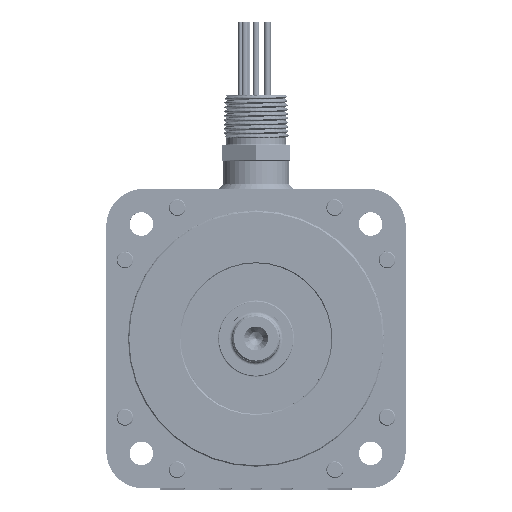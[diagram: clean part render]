
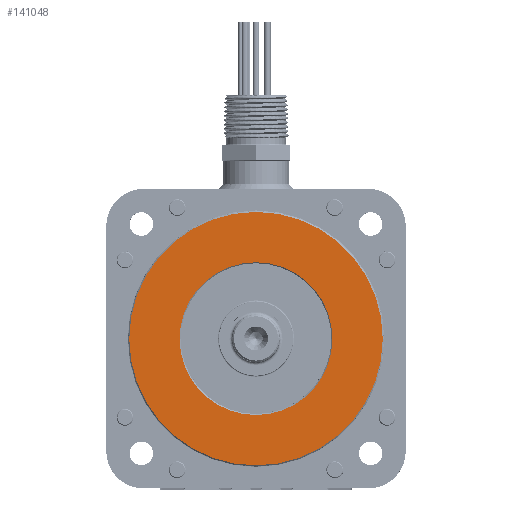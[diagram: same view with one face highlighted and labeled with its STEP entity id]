
A CAD part, top view. The second image highlights one B-rep face of the part: STEP entity #141048.
In plain terms, the highlighted planar face has unit normal (0, 0, 1).
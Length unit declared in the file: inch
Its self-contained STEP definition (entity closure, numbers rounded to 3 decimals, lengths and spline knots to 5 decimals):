
#2224 = CIRCLE ( 'NONE', #173721, 1.5305 ) ;
#3533 = CIRCLE ( 'NONE', #141212, 2.53906 ) ;
#4515 = AXIS2_PLACEMENT_3D ( 'NONE', #24026, #150663, #16891 ) ;
#6268 = CARTESIAN_POINT ( 'NONE',  ( 0., 0., 0. ) ) ;
#9431 = EDGE_LOOP ( 'NONE', ( #120944, #12905 ) ) ;
#12905 = ORIENTED_EDGE ( 'NONE', *, *, #64187, .F. ) ;
#12993 = CARTESIAN_POINT ( 'NONE',  ( 1.5305, 0., 0. ) ) ;
#13172 = EDGE_CURVE ( 'NONE', #133897, #105151, #2224, .T. ) ;
#13472 = FACE_OUTER_BOUND ( 'NONE', #130832, .T. ) ;
#16891 = DIRECTION ( 'NONE',  ( 1., 0., 0. ) ) ;
#19898 = CARTESIAN_POINT ( 'NONE',  ( -2.53906, 0., 0. ) ) ;
#21077 = CARTESIAN_POINT ( 'NONE',  ( -1.5305, 0., 0. ) ) ;
#24026 = CARTESIAN_POINT ( 'NONE',  ( 0., 1.5305, 0. ) ) ;
#24953 = EDGE_CURVE ( 'NONE', #122652, #52516, #3533, .T. ) ;
#26194 = DIRECTION ( 'NONE',  ( 1., 0., 0. ) ) ;
#27275 = AXIS2_PLACEMENT_3D ( 'NONE', #79027, #159993, #26194 ) ;
#30943 = DIRECTION ( 'NONE',  ( 1., 0., 0. ) ) ;
#38450 = CIRCLE ( 'NONE', #27275, 1.5305 ) ;
#52516 = VERTEX_POINT ( 'NONE', #73507 ) ;
#62345 = CARTESIAN_POINT ( 'NONE',  ( 0., 0., 0. ) ) ;
#64187 = EDGE_CURVE ( 'NONE', #105151, #133897, #38450, .T. ) ;
#73507 = CARTESIAN_POINT ( 'NONE',  ( 2.53906, 0., 0. ) ) ;
#79027 = CARTESIAN_POINT ( 'NONE',  ( 0., 0., 0. ) ) ;
#84731 = CARTESIAN_POINT ( 'NONE',  ( 0., 0., 0. ) ) ;
#85437 = AXIS2_PLACEMENT_3D ( 'NONE', #62345, #101067, #101929 ) ;
#86296 = EDGE_CURVE ( 'NONE', #52516, #122652, #147284, .T. ) ;
#101067 = DIRECTION ( 'NONE',  ( 0., 0., 1. ) ) ;
#101929 = DIRECTION ( 'NONE',  ( 1., 0., 0. ) ) ;
#105151 = VERTEX_POINT ( 'NONE', #21077 ) ;
#106177 = DIRECTION ( 'NONE',  ( 0., 0., 1. ) ) ;
#116431 = FACE_BOUND ( 'NONE', #9431, .T. ) ;
#120944 = ORIENTED_EDGE ( 'NONE', *, *, #13172, .F. ) ;
#122652 = VERTEX_POINT ( 'NONE', #19898 ) ;
#130832 = EDGE_LOOP ( 'NONE', ( #172990, #160383 ) ) ;
#133459 = DIRECTION ( 'NONE',  ( 1., 0., 0. ) ) ;
#133897 = VERTEX_POINT ( 'NONE', #12993 ) ;
#141048 = ADVANCED_FACE ( 'NONE', ( #13472, #116431 ), #144582, .T. ) ;
#141212 = AXIS2_PLACEMENT_3D ( 'NONE', #6268, #154130, #30943 ) ;
#144582 = PLANE ( 'NONE',  #4515 ) ;
#147284 = CIRCLE ( 'NONE', #85437, 2.53906 ) ;
#150663 = DIRECTION ( 'NONE',  ( 0., 0., 1. ) ) ;
#154130 = DIRECTION ( 'NONE',  ( 0., 0., 1. ) ) ;
#159993 = DIRECTION ( 'NONE',  ( 0., 0., 1. ) ) ;
#160383 = ORIENTED_EDGE ( 'NONE', *, *, #86296, .T. ) ;
#172990 = ORIENTED_EDGE ( 'NONE', *, *, #24953, .T. ) ;
#173721 = AXIS2_PLACEMENT_3D ( 'NONE', #84731, #106177, #133459 ) ;
